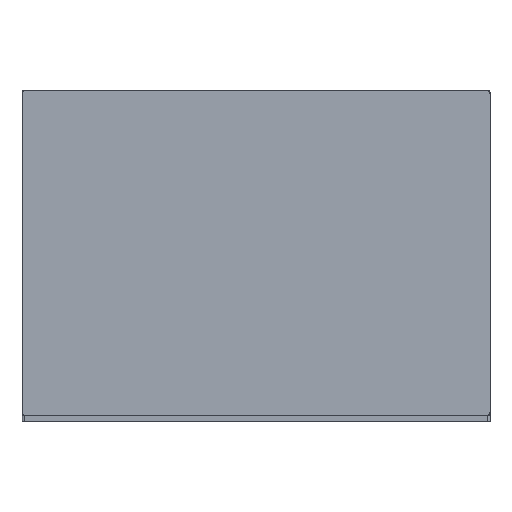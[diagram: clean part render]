
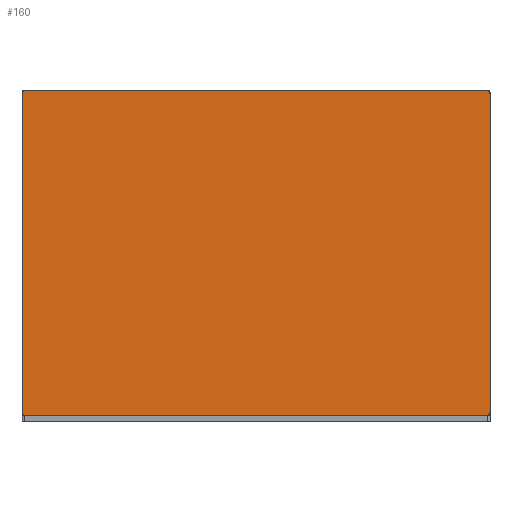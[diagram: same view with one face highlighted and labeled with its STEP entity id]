
A CAD part, front view. The second image highlights one B-rep face of the part: STEP entity #160.
In plain terms, the highlighted planar face has unit normal (0, -1, 0).
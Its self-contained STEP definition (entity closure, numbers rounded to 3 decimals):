
#1=CARTESIAN_POINT('',(-56.5,13.5,-40.5));
#2=DIRECTION('',(0.,-1.,0.));
#3=DIRECTION('',(-1.,0.,0.));
#4=AXIS2_PLACEMENT_3D('',#1,#2,#3);
#6=DIRECTION('',(0.,0.,1.));
#7=VECTOR('',#6,78.);
#8=CARTESIAN_POINT('',(-57.5,13.5,-40.5));
#9=LINE('',#8,#7);
#10=CARTESIAN_POINT('',(-56.5,13.5,37.5));
#11=DIRECTION('',(0.,-1.,0.));
#12=DIRECTION('',(0.,0.,1.));
#13=AXIS2_PLACEMENT_3D('',#10,#11,#12);
#15=DIRECTION('',(1.,0.,0.));
#16=VECTOR('',#15,113.);
#17=CARTESIAN_POINT('',(-56.5,13.5,38.5));
#18=LINE('',#17,#16);
#19=CARTESIAN_POINT('',(56.5,13.5,37.5));
#20=DIRECTION('',(0.,-1.,0.));
#21=DIRECTION('',(1.,0.,0.));
#22=AXIS2_PLACEMENT_3D('',#19,#20,#21);
#24=DIRECTION('',(0.,0.,-1.));
#25=VECTOR('',#24,78.);
#26=CARTESIAN_POINT('',(57.5,13.5,37.5));
#27=LINE('',#26,#25);
#28=CARTESIAN_POINT('',(56.5,13.5,-40.5));
#29=DIRECTION('',(0.,-1.,0.));
#30=DIRECTION('',(0.,0.,-1.));
#31=AXIS2_PLACEMENT_3D('',#28,#29,#30);
#33=DIRECTION('',(-1.,0.,0.));
#34=VECTOR('',#33,113.);
#35=CARTESIAN_POINT('',(56.5,13.5,-41.5));
#36=LINE('',#35,#34);
#105=CARTESIAN_POINT('',(-57.5,13.5,-40.5));
#106=CARTESIAN_POINT('',(-56.5,13.5,-41.5));
#107=VERTEX_POINT('',#105);
#108=VERTEX_POINT('',#106);
#113=CARTESIAN_POINT('',(-56.5,13.5,38.5));
#114=CARTESIAN_POINT('',(-57.5,13.5,37.5));
#115=VERTEX_POINT('',#113);
#116=VERTEX_POINT('',#114);
#121=CARTESIAN_POINT('',(56.5,13.5,-41.5));
#122=CARTESIAN_POINT('',(57.5,13.5,-40.5));
#123=VERTEX_POINT('',#121);
#124=VERTEX_POINT('',#122);
#129=CARTESIAN_POINT('',(57.5,13.5,37.5));
#130=CARTESIAN_POINT('',(56.5,13.5,38.5));
#131=VERTEX_POINT('',#129);
#132=VERTEX_POINT('',#130);
#137=CARTESIAN_POINT('',(0.,13.5,-1.5));
#138=DIRECTION('',(0.,1.,0.));
#139=DIRECTION('',(1.,0.,0.));
#140=AXIS2_PLACEMENT_3D('',#137,#138,#139);
#141=PLANE('',#140);
#143=ORIENTED_EDGE('',*,*,#142,.F.);
#145=ORIENTED_EDGE('',*,*,#144,.T.);
#147=ORIENTED_EDGE('',*,*,#146,.F.);
#149=ORIENTED_EDGE('',*,*,#148,.T.);
#151=ORIENTED_EDGE('',*,*,#150,.F.);
#153=ORIENTED_EDGE('',*,*,#152,.T.);
#155=ORIENTED_EDGE('',*,*,#154,.F.);
#157=ORIENTED_EDGE('',*,*,#156,.T.);
#158=EDGE_LOOP('',(#143,#145,#147,#149,#151,#153,#155,#157));
#159=FACE_OUTER_BOUND('',#158,.F.);
#160=ADVANCED_FACE('',(#159),#141,.F.);
#5=CIRCLE('',#4,1.);
#14=CIRCLE('',#13,1.);
#23=CIRCLE('',#22,1.);
#32=CIRCLE('',#31,1.);
#142=EDGE_CURVE('',#107,#108,#5,.T.);
#144=EDGE_CURVE('',#107,#116,#9,.T.);
#146=EDGE_CURVE('',#115,#116,#14,.T.);
#148=EDGE_CURVE('',#115,#132,#18,.T.);
#150=EDGE_CURVE('',#131,#132,#23,.T.);
#152=EDGE_CURVE('',#131,#124,#27,.T.);
#154=EDGE_CURVE('',#123,#124,#32,.T.);
#156=EDGE_CURVE('',#123,#108,#36,.T.);
